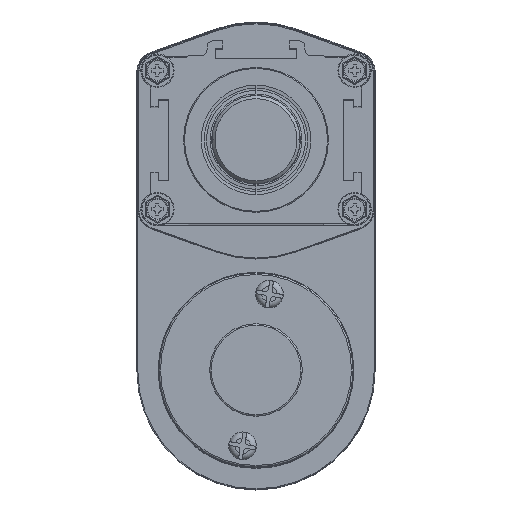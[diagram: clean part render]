
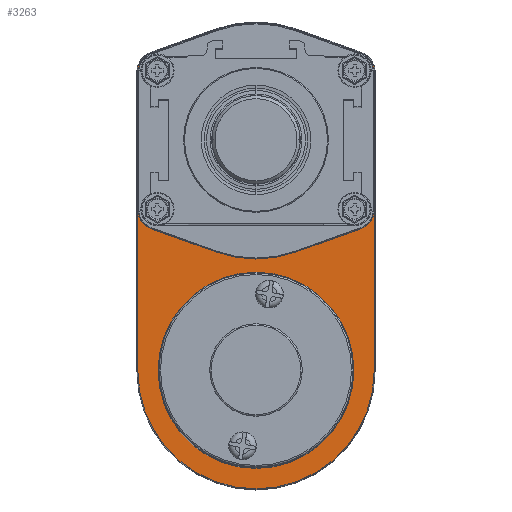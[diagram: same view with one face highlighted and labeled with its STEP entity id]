
A CAD part, top view. The second image highlights one B-rep face of the part: STEP entity #3263.
In plain terms, the highlighted planar face has unit normal (0, 0, 1).
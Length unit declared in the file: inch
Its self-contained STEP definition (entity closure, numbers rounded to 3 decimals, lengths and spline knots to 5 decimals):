
#3263=ADVANCED_FACE('NONE',(#8810,#8811,#8812),#8813,.T.);
#8810=FACE_OUTER_BOUND('',#18038,.T.);
#8811=FACE_BOUND('',#18039,.T.);
#8812=FACE_BOUND('',#18040,.T.);
#8813=PLANE('',#18041);
#18038=EDGE_LOOP('',(#32701,#32702,#32703,#32704,#32705,#32706,#32707,#32708));
#18039=EDGE_LOOP('',(#32709,#32710));
#18040=EDGE_LOOP('',(#32711,#32712,#32713,#32714,#32715,#32716,#32717,#32718,#32719,#32720,#32721,#32722,#32723));
#18041=AXIS2_PLACEMENT_3D('',#32724,#32725,#32726);
#32701=ORIENTED_EDGE('',*,*,#55049,.T.);
#32702=ORIENTED_EDGE('',*,*,#55050,.T.);
#32703=ORIENTED_EDGE('',*,*,#55051,.T.);
#32704=ORIENTED_EDGE('',*,*,#55052,.T.);
#32705=ORIENTED_EDGE('',*,*,#55053,.T.);
#32706=ORIENTED_EDGE('',*,*,#55054,.T.);
#32707=ORIENTED_EDGE('',*,*,#55055,.T.);
#32708=ORIENTED_EDGE('',*,*,#54455,.T.);
#32709=ORIENTED_EDGE('',*,*,#55056,.F.);
#32710=ORIENTED_EDGE('',*,*,#55057,.F.);
#32711=ORIENTED_EDGE('',*,*,#55058,.T.);
#32712=ORIENTED_EDGE('',*,*,#55059,.F.);
#32713=ORIENTED_EDGE('',*,*,#55060,.F.);
#32714=ORIENTED_EDGE('',*,*,#55061,.F.);
#32715=ORIENTED_EDGE('',*,*,#55062,.F.);
#32716=ORIENTED_EDGE('',*,*,#55063,.F.);
#32717=ORIENTED_EDGE('',*,*,#55064,.T.);
#32718=ORIENTED_EDGE('',*,*,#54472,.T.);
#32719=ORIENTED_EDGE('',*,*,#55065,.T.);
#32720=ORIENTED_EDGE('',*,*,#55066,.T.);
#32721=ORIENTED_EDGE('',*,*,#55067,.T.);
#32722=ORIENTED_EDGE('',*,*,#55068,.T.);
#32723=ORIENTED_EDGE('',*,*,#53733,.T.);
#32724=CARTESIAN_POINT('',(-20.20692,10.28208,-13.12935));
#32725=DIRECTION('',(0.0,0.0,1.0));
#32726=DIRECTION('',(1.0,0.0,0.0));
#53733=EDGE_CURVE('NONE',#63231,#63232,#63233,.T.);
#54455=EDGE_CURVE('NONE',#64503,#64508,#64510,.T.);
#54472=EDGE_CURVE('NONE',#64539,#64540,#64541,.T.);
#55049=EDGE_CURVE('NONE',#64508,#65539,#65540,.T.);
#55050=EDGE_CURVE('NONE',#65539,#65541,#65542,.T.);
#55051=EDGE_CURVE('NONE',#65541,#65543,#65544,.T.);
#55052=EDGE_CURVE('NONE',#65543,#65545,#65546,.T.);
#55053=EDGE_CURVE('NONE',#65545,#65547,#65548,.T.);
#55054=EDGE_CURVE('NONE',#65547,#65549,#65550,.T.);
#55055=EDGE_CURVE('NONE',#65549,#64503,#65551,.T.);
#55056=EDGE_CURVE('NONE',#65552,#65553,#65554,.T.);
#55057=EDGE_CURVE('NONE',#65553,#65552,#65555,.T.);
#55058=EDGE_CURVE('NONE',#63232,#65556,#65557,.T.);
#55059=EDGE_CURVE('NONE',#65558,#65556,#65559,.T.);
#55060=EDGE_CURVE('NONE',#65560,#65558,#65561,.T.);
#55061=EDGE_CURVE('NONE',#65562,#65560,#65563,.T.);
#55062=EDGE_CURVE('NONE',#65564,#65562,#65565,.T.);
#55063=EDGE_CURVE('NONE',#65566,#65564,#65567,.T.);
#55064=EDGE_CURVE('NONE',#65566,#64539,#65568,.T.);
#55065=EDGE_CURVE('NONE',#64540,#65569,#65570,.T.);
#55066=EDGE_CURVE('NONE',#65569,#65571,#65572,.T.);
#55067=EDGE_CURVE('NONE',#65571,#65573,#65574,.T.);
#55068=EDGE_CURVE('NONE',#65573,#63231,#65575,.T.);
#63231=VERTEX_POINT('NONE',#77302);
#63232=VERTEX_POINT('NONE',#77303);
#63233=CIRCLE('',#77304,0.24785);
#64503=VERTEX_POINT('NONE',#80248);
#64508=VERTEX_POINT('NONE',#80255);
#64510=LINE('',#80258,#80259);
#64539=VERTEX_POINT('NONE',#80301);
#64540=VERTEX_POINT('NONE',#80302);
#64541=CIRCLE('',#80303,0.24785);
#65539=VERTEX_POINT('NONE',#82252);
#65540=CIRCLE('',#82253,0.25102);
#65541=VERTEX_POINT('NONE',#82254);
#65542=LINE('',#82255,#82256);
#65543=VERTEX_POINT('NONE',#82257);
#65544=CIRCLE('',#82258,1.51086);
#65545=VERTEX_POINT('NONE',#82259);
#65546=LINE('',#82260,#82261);
#65547=VERTEX_POINT('NONE',#82262);
#65548=CIRCLE('',#82263,0.25102);
#65549=VERTEX_POINT('NONE',#82264);
#65550=LINE('',#82265,#82266);
#65551=CIRCLE('',#82267,1.51086);
#65552=VERTEX_POINT('NONE',#82268);
#65553=VERTEX_POINT('NONE',#82269);
#65554=CIRCLE('',#82270,1.25);
#65555=CIRCLE('',#82271,1.25);
#65556=VERTEX_POINT('NONE',#82272);
#65557=LINE('',#82273,#82274);
#65558=VERTEX_POINT('NONE',#82275);
#65559=CIRCLE('',#82276,0.24785);
#65560=VERTEX_POINT('NONE',#82277);
#65561=LINE('',#82278,#82279);
#65562=VERTEX_POINT('NONE',#82280);
#65563=CIRCLE('',#82281,1.50769);
#65564=VERTEX_POINT('NONE',#82282);
#65565=LINE('',#82283,#82284);
#65566=VERTEX_POINT('NONE',#82285);
#65567=CIRCLE('',#82286,0.24785);
#65568=LINE('',#82287,#82288);
#65569=VERTEX_POINT('NONE',#82289);
#65570=LINE('',#82290,#82291);
#65571=VERTEX_POINT('NONE',#82292);
#65572=CIRCLE('',#82293,1.50769);
#65573=VERTEX_POINT('NONE',#82294);
#65574=CIRCLE('',#82295,1.50769);
#65575=LINE('',#82296,#82297);
#77302=CARTESIAN_POINT('',(-19.13855,12.86767,-13.12935));
#77303=CARTESIAN_POINT('',(-18.97456,12.63444,-13.12935));
#77304=AXIS2_PLACEMENT_3D('',#106225,#106226,#106227);
#80248=CARTESIAN_POINT('',(-18.97138,8.81554,-13.12935));
#80255=CARTESIAN_POINT('',(-18.97138,12.63444,-13.12935));
#80258=CARTESIAN_POINT('',(-18.97138,12.63444,-13.12935));
#80259=VECTOR('',#106948,39.37008);
#80301=CARTESIAN_POINT('',(-21.98994,12.63444,-13.12935));
#80302=CARTESIAN_POINT('',(-21.82595,12.86767,-13.12935));
#80303=AXIS2_PLACEMENT_3D('',#106966,#106967,#106968);
#82252=CARTESIAN_POINT('',(-19.13747,12.87066,-13.12935));
#82253=AXIS2_PLACEMENT_3D('',#107590,#107591,#107592);
#82254=CARTESIAN_POINT('',(-19.97106,13.17037,-13.12935));
#82255=CARTESIAN_POINT('',(-19.97106,13.17037,-13.12935));
#82256=VECTOR('',#107593,39.37008);
#82257=CARTESIAN_POINT('',(-20.99344,13.17037,-13.12935));
#82258=AXIS2_PLACEMENT_3D('',#107594,#107595,#107596);
#82259=CARTESIAN_POINT('',(-21.82702,12.87066,-13.12935));
#82260=CARTESIAN_POINT('',(-21.82702,12.87066,-13.12935));
#82261=VECTOR('',#107597,39.37008);
#82262=CARTESIAN_POINT('',(-21.99311,12.63444,-13.12935));
#82263=AXIS2_PLACEMENT_3D('',#107598,#107599,#107600);
#82264=CARTESIAN_POINT('',(-21.99311,8.81554,-13.12935));
#82265=CARTESIAN_POINT('',(-21.99311,8.81554,-13.12935));
#82266=VECTOR('',#107601,39.37008);
#82267=AXIS2_PLACEMENT_3D('',#107602,#107603,#107604);
#82268=CARTESIAN_POINT('',(-20.69931,7.58454,-13.12935));
#82269=CARTESIAN_POINT('',(-20.26519,10.04655,-13.12935));
#82270=AXIS2_PLACEMENT_3D('',#107605,#107606,#107607);
#82271=AXIS2_PLACEMENT_3D('',#107608,#107609,#107610);
#82272=CARTESIAN_POINT('',(-18.97456,10.86279,-13.12935));
#82273=CARTESIAN_POINT('',(-18.97456,12.63444,-13.12935));
#82274=VECTOR('',#107611,39.37008);
#82275=CARTESIAN_POINT('',(-19.13855,10.62956,-13.12935));
#82276=AXIS2_PLACEMENT_3D('',#107612,#107613,#107614);
#82277=CARTESIAN_POINT('',(-19.97213,10.32985,-13.12935));
#82278=CARTESIAN_POINT('',(-20.19525,10.24962,-13.12935));
#82279=VECTOR('',#107615,39.37008);
#82280=CARTESIAN_POINT('',(-20.99236,10.32985,-13.12935));
#82281=AXIS2_PLACEMENT_3D('',#107616,#107617,#107618);
#82282=CARTESIAN_POINT('',(-21.82595,10.62956,-13.12935));
#82283=CARTESIAN_POINT('',(-20.28163,10.0743,-13.12935));
#82284=VECTOR('',#107619,39.37008);
#82285=CARTESIAN_POINT('',(-21.98994,10.86279,-13.12935));
#82286=AXIS2_PLACEMENT_3D('',#107620,#107621,#107622);
#82287=CARTESIAN_POINT('',(-21.98994,10.86279,-13.12935));
#82288=VECTOR('',#107623,39.37008);
#82289=CARTESIAN_POINT('',(-20.99236,13.16739,-13.12935));
#82290=CARTESIAN_POINT('',(-21.82595,12.86767,-13.12935));
#82291=VECTOR('',#107624,39.37008);
#82292=CARTESIAN_POINT('',(-20.48225,13.2563,-13.12935));
#82293=AXIS2_PLACEMENT_3D('',#107625,#107626,#107627);
#82294=CARTESIAN_POINT('',(-19.97213,13.16739,-13.12935));
#82295=AXIS2_PLACEMENT_3D('',#107628,#107629,#107630);
#82296=CARTESIAN_POINT('',(-19.97213,13.16739,-13.12935));
#82297=VECTOR('',#107631,39.37008);
#106225=CARTESIAN_POINT('',(-19.22241,12.63444,-13.12935));
#106226=DIRECTION('',(0.0,0.0,-1.0));
#106227=DIRECTION('',(1.0,0.,0.0));
#106948=DIRECTION('',(0.0,1.0,0.0));
#106966=CARTESIAN_POINT('',(-21.74209,12.63444,-13.12935));
#106967=DIRECTION('',(0.0,0.0,-1.0));
#106968=DIRECTION('',(1.0,0.,0.0));
#107590=CARTESIAN_POINT('',(-19.22241,12.63444,-13.12935));
#107591=DIRECTION('',(0.0,0.0,1.0));
#107592=DIRECTION('',(1.0,0.0,0.0));
#107593=DIRECTION('',(-0.941,0.338,0.0));
#107594=CARTESIAN_POINT('',(-20.48225,11.74862,-13.12935));
#107595=DIRECTION('',(0.0,0.0,1.0));
#107596=DIRECTION('',(1.0,0.0,0.0));
#107597=DIRECTION('',(-0.941,-0.338,0.0));
#107598=CARTESIAN_POINT('',(-21.74209,12.63444,-13.12935));
#107599=DIRECTION('',(0.0,0.0,1.0));
#107600=DIRECTION('',(1.0,0.0,0.0));
#107601=DIRECTION('',(0.0,-1.0,0.0));
#107602=CARTESIAN_POINT('',(-20.48225,8.81554,-13.12935));
#107603=DIRECTION('',(0.0,0.0,1.0));
#107604=DIRECTION('',(1.0,0.0,0.0));
#107605=CARTESIAN_POINT('',(-20.48225,8.81554,-13.12935));
#107606=DIRECTION('',(0.0,0.0,1.0));
#107607=DIRECTION('',(1.0,0.0,0.0));
#107608=CARTESIAN_POINT('',(-20.48225,8.81554,-13.12935));
#107609=DIRECTION('',(0.0,0.0,1.0));
#107610=DIRECTION('',(1.0,0.0,0.0));
#107611=DIRECTION('',(0.,-1.0,0.0));
#107612=CARTESIAN_POINT('',(-19.22241,10.86279,-13.12935));
#107613=DIRECTION('',(0.0,0.0,1.0));
#107614=DIRECTION('',(1.0,0.0,0.0));
#107615=DIRECTION('',(0.941,0.338,0.0));
#107616=CARTESIAN_POINT('',(-20.48225,11.74862,-13.12935));
#107617=DIRECTION('',(0.0,0.0,1.0));
#107618=DIRECTION('',(1.0,0.0,0.0));
#107619=DIRECTION('',(0.941,-0.338,0.0));
#107620=CARTESIAN_POINT('',(-21.74209,10.86279,-13.12935));
#107621=DIRECTION('',(0.0,0.0,1.0));
#107622=DIRECTION('',(1.0,0.0,0.0));
#107623=DIRECTION('',(0.,1.0,0.0));
#107624=DIRECTION('',(0.941,0.338,0.0));
#107625=CARTESIAN_POINT('',(-20.48225,11.74862,-13.12935));
#107626=DIRECTION('',(0.0,0.0,-1.0));
#107627=DIRECTION('',(1.0,0.,0.0));
#107628=CARTESIAN_POINT('',(-20.48225,11.74862,-13.12935));
#107629=DIRECTION('',(0.0,0.0,-1.0));
#107630=DIRECTION('',(1.0,0.,0.0));
#107631=DIRECTION('',(0.941,-0.338,0.0));
